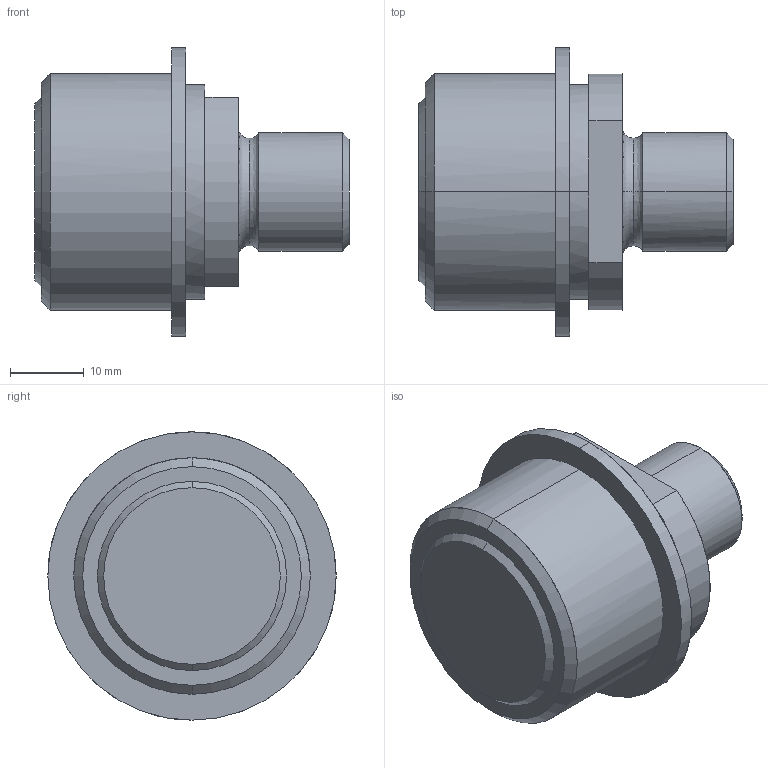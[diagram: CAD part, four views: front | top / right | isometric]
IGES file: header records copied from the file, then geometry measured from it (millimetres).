
Start section: START RECORD GO HERE.
Global section: file name: AGS3302M16.igs; native system: DASSAULT SYSTEMES CATIA V5 R20 - www.3ds.com; preprocessor: CATIA Version 5 Release 20 ; author: Utente; organization: NB04-ASUS; date: 20210221.201100; units: millimetre
Bounding box: 42.5 x 39 x 39 mm (x, y, z)
Surface area: 5940.7 mm2 (no closed solid volume)
Topology: 0 solids, 0 shells, 32 faces, 180 edges, 180 vertices
Faces by surface type: revolution 20, plane 12
